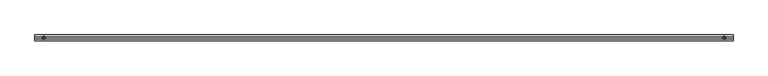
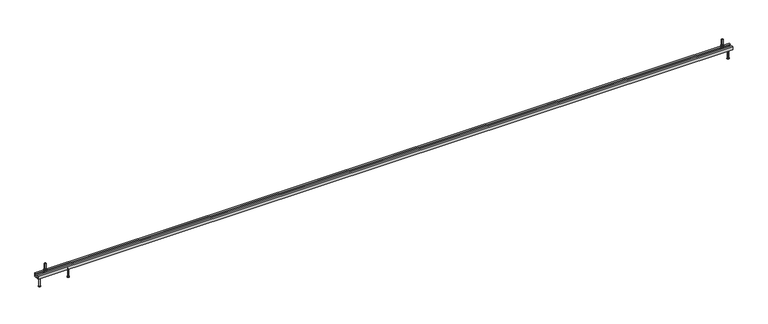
"""IFC4 building model written with IfcOpenShell, lengths in millimetres: fastener geometry, JTA-W JORDAHL® AnchorChannels : JTA-W L=6000 mm."""

from ifc_helpers import new_model, si_unit, point, frame, frame_2d, origin, place, context, project, spatial, polyline, circle_curve, trimmed, segment, composite_curve, outline, extrude, source, transform, mapped, element, save
from ifc_brep_helpers import plane_surface, cylinder_surface, revolved_surface, advanced_brep


def fastener_de041d71(model_context):
    return source(origin(), model_context, "Body", "SolidModel", [
        advanced_brep(
        [(272.9166667, 0.0, -30.0), (259.4166667, 0.0, -30.0), (286.4166667, 0.0, -30.0), (264.4166667, 0.0, -115.0), (272.9166667, 0.0, -115.0), (281.4166667, 0.0, -115.0), (264.4166667, 0.0, -113.0), (281.4166667, 0.0, -113.0), (268.4166667, 0.0, -110.6905989), (277.4166667, 0.0, -110.6905989), (268.4166667, 0.0, -32.5), (277.4166667, 0.0, -32.5)],
        [
            (0, 1),
            (1, 2, circle_curve(frame((272.9166667, 0.0, -30.0), z_axis=(0.0, 0.0, 1.0), x_axis=(1.0, 0.0, 0.0)), 13.5)),
            (2, 0),
            (2, 1, circle_curve(frame((272.9166667, 0.0, -30.0), z_axis=(0.0, 0.0, 1.0), x_axis=(1.0, 0.0, 0.0)), 13.5)),
            (3, 4),
            (4, 5),
            (5, 3, circle_curve(frame((272.9166667, 0.0, -115.0), z_axis=(0.0, 0.0, -1.0), x_axis=(1.0, 0.0, 0.0)), 8.5)),
            (3, 5, circle_curve(frame((272.9166667, 0.0, -115.0), z_axis=(0.0, 0.0, -1.0), x_axis=(1.0, 0.0, 0.0)), 8.5)),
            (6, 3),
            (5, 7),
            (7, 6, circle_curve(frame((272.9166667, 0.0, -113.0), z_axis=(0.0, 0.0, -1.0), x_axis=(1.0, 0.0, 0.0)), 8.5)),
            (6, 7, circle_curve(frame((272.9166667, 0.0, -113.0), z_axis=(0.0, 0.0, -1.0), x_axis=(1.0, 0.0, 0.0)), 8.5)),
            (8, 6),
            (7, 9),
            (9, 8, circle_curve(frame((272.9166667, 0.0, -110.6905989), z_axis=(0.0, 0.0, -1.0), x_axis=(1.0, 0.0, 0.0)), 4.5)),
            (8, 9, circle_curve(frame((272.9166667, 0.0, -110.6905989), z_axis=(0.0, 0.0, -1.0), x_axis=(1.0, 0.0, 0.0)), 4.5)),
            (10, 8),
            (9, 11),
            (11, 10, circle_curve(frame((272.9166667, 0.0, -32.5), z_axis=(0.0, 0.0, -1.0), x_axis=(1.0, 0.0, 0.0)), 4.5)),
            (10, 11, circle_curve(frame((272.9166667, 0.0, -32.5), z_axis=(0.0, 0.0, -1.0), x_axis=(1.0, 0.0, 0.0)), 4.5)),
            (1, 10),
            (11, 2),
        ],
        [
            plane_surface(frame((272.9166667, 0.0, -30.0), z_axis=(0.0, 0.0, 1.0), x_axis=(1.0, 0.0, 0.0))),
            plane_surface(frame((272.9166667, 0.0, -115.0), z_axis=(0.0, 0.0, -1.0), x_axis=(1.0, 0.0, 0.0))),
            cylinder_surface(frame((272.9166667, 0.0, 2299.3150031), z_axis=(0.0, 0.0, 1.0), x_axis=(1.0, 0.0, 0.0)), 8.5),
            revolved_surface(polyline([(281.4166667, 0.0, -113.0), (277.4166667, 0.0, -110.6905989)]), (272.9166667, 0.0, 2299.3150031), (0.0, 0.0, 1.0)),
            cylinder_surface(frame((272.9166667, 0.0, 2299.3150031), z_axis=(0.0, 0.0, 1.0), x_axis=(1.0, 0.0, 0.0)), 4.5),
            revolved_surface(polyline([(277.4166667, 0.0, -32.5), (286.4166667, 0.0, -30.0)]), (272.9166667, 0.0, 2299.3150031), (0.0, 0.0, 1.0)),
        ],
        [
            (0, [[1, 2, 3]]),
            (0, [[-3, 4, -1]]),
            (1, [[5, 6, 7]]),
            (1, [[-6, -5, 8]]),
            (2, [[9, -7, 10, 11]]),
            (2, [[-10, -8, -9, 12]]),
            (3, [[13, -11, 14, 15]]),
            (3, [[-14, -12, -13, 16]]),
            (4, [[17, -15, 18, 19]]),
            (4, [[-18, -16, -17, 20]]),
            (5, [[21, -19, 22, -2]]),
            (5, [[-22, -20, -21, -4]]),
        ],
    ),
        extrude(outline(polyline([(5925.0, -10.3923048), (5916.0, -5.1961524), (5916.0, 5.1961524), (5925.0, 10.3923048), (5934.0, 5.1961524), (5934.0, -5.1961524), (5925.0, -10.3923048)]), holes=[composite_curve([segment(trimmed(circle_curve(frame_2d((5925.0, 0.0)), 6.0), [point((5919.0, 0.0))], [point((5931.0, 0.0))], True, "CARTESIAN"), True, "CONTINUOUS"), segment(trimmed(circle_curve(frame_2d((5925.0, 0.0)), 6.0), [point((5931.0, 0.0))], [point((5919.0, 0.0))], True, "CARTESIAN"), True, "CONTINUOUS")], self_intersect=False)]), frame((0.0, 0.0, 17.5), z_axis=(0.0, 0.0, 1.0), x_axis=(1.0, 0.0, 0.0)), (0.0, 0.0, 1.0), 10.8),
        extrude(outline(composite_curve([segment(trimmed(circle_curve(frame_2d((5925.0, 0.0)), 12.0), [point((5913.0, 0.0))], [point((5937.0, 0.0))], False, "CARTESIAN"), True, "CONTINUOUS"), segment(trimmed(circle_curve(frame_2d((5925.0, 0.0)), 12.0), [point((5937.0, 0.0))], [point((5913.0, 0.0))], False, "CARTESIAN"), True, "CONTINUOUS")], self_intersect=False), holes=[composite_curve([segment(trimmed(circle_curve(frame_2d((5925.0, 0.0)), 6.5), [point((5918.5, 0.0))], [point((5931.5, 0.0))], True, "CARTESIAN"), True, "CONTINUOUS"), segment(trimmed(circle_curve(frame_2d((5925.0, 0.0)), 6.5), [point((5931.5, 0.0))], [point((5918.5, 0.0))], True, "CARTESIAN"), True, "CONTINUOUS")], self_intersect=False)]), frame((0.0, 0.0, 15.0), z_axis=(0.0, 0.0, 1.0), x_axis=(1.0, 0.0, 0.0)), (0.0, 0.0, 1.0), 2.5),
        extrude(outline(polyline([(75.0, -10.3923048), (66.0, -5.1961524), (66.0, 5.1961524), (75.0, 10.3923048), (84.0, 5.1961524), (84.0, -5.1961524), (75.0, -10.3923048)]), holes=[composite_curve([segment(trimmed(circle_curve(frame_2d((75.0, 0.0)), 6.0), [point((69.0, 0.0))], [point((81.0, 0.0))], True, "CARTESIAN"), True, "CONTINUOUS"), segment(trimmed(circle_curve(frame_2d((75.0, 0.0)), 6.0), [point((81.0, 0.0))], [point((69.0, 0.0))], True, "CARTESIAN"), True, "CONTINUOUS")], self_intersect=False)]), frame((0.0, 0.0, 17.5), z_axis=(0.0, 0.0, 1.0), x_axis=(1.0, 0.0, 0.0)), (0.0, 0.0, 1.0), 10.8),
        extrude(outline(composite_curve([segment(trimmed(circle_curve(frame_2d((75.0, 0.0)), 12.0), [point((63.0, 0.0))], [point((87.0, 0.0))], False, "CARTESIAN"), True, "CONTINUOUS"), segment(trimmed(circle_curve(frame_2d((75.0, 0.0)), 12.0), [point((87.0, 0.0))], [point((63.0, 0.0))], False, "CARTESIAN"), True, "CONTINUOUS")], self_intersect=False), holes=[composite_curve([segment(trimmed(circle_curve(frame_2d((75.0, 0.0)), 6.5), [point((68.5, 0.0))], [point((81.5, 0.0))], True, "CARTESIAN"), True, "CONTINUOUS"), segment(trimmed(circle_curve(frame_2d((75.0, 0.0)), 6.5), [point((81.5, 0.0))], [point((68.5, 0.0))], True, "CARTESIAN"), True, "CONTINUOUS")], self_intersect=False)]), frame((0.0, 0.0, 15.0), z_axis=(0.0, 0.0, 1.0), x_axis=(1.0, 0.0, 0.0)), (0.0, 0.0, 1.0), 2.5),
        advanced_brep(
        [(5933.5, -20.7, -4.0), (5933.5, -20.7, -14.0), (5933.5, 20.7, -14.0), (5933.5, 20.7, -4.0), (5916.5, -20.7, -4.0), (5916.5, 20.7, -4.0), (5916.5, 20.7, -14.0), (5916.5, -20.7, -14.0), (5931.0, 0.0, -4.0), (5919.0, 0.0, -4.0), (5919.0, 0.0, 76.0), (5931.0, 0.0, 76.0)],
        [
            (0, 1),
            (1, 2),
            (2, 3),
            (3, 0),
            (4, 5),
            (5, 6),
            (6, 7),
            (7, 4),
            (3, 5),
            (4, 0),
            (8, 9, circle_curve(frame((5925.0, 0.0, -4.0), z_axis=(0.0, 0.0, -1.0), x_axis=(1.0, 0.0, 0.0)), 6.0)),
            (9, 8, circle_curve(frame((5925.0, 0.0, -4.0), z_axis=(0.0, 0.0, -1.0), x_axis=(1.0, 0.0, 0.0)), 6.0)),
            (2, 6),
            (1, 7),
            (10, 11, circle_curve(frame((5925.0, 0.0, 76.0), z_axis=(0.0, 0.0, 1.0), x_axis=(1.0, 0.0, 0.0)), 6.0)),
            (11, 10, circle_curve(frame((5925.0, 0.0, 76.0), z_axis=(0.0, 0.0, 1.0), x_axis=(1.0, 0.0, 0.0)), 6.0)),
            (11, 8),
            (9, 10),
        ],
        [
            plane_surface(frame((5933.5, 20.7, -4.0), z_axis=(1.0, 0.0, 0.0), x_axis=(0.0, 1.0, 0.0))),
            plane_surface(frame((5916.5, 20.7, -4.0), z_axis=(-1.0, 0.0, 0.0), x_axis=(0.0, -1.0, 0.0))),
            plane_surface(frame((5933.5, -20.7, -4.0), z_axis=(0.0, 0.0, 1.0), x_axis=(-1.0, 0.0, 0.0))),
            plane_surface(frame((5933.5, 20.7, -4.0), z_axis=(0.0, 1.0, 0.0), x_axis=(-1.0, 0.0, 0.0))),
            plane_surface(frame((5933.5, 20.7, -14.0), z_axis=(0.0, 0.0, -1.0), x_axis=(-1.0, 0.0, 0.0))),
            plane_surface(frame((5933.5, -20.7, -14.0), z_axis=(0.0, -1.0, 0.0), x_axis=(-1.0, 0.0, 0.0))),
            plane_surface(frame((5931.0, 0.0, 76.0), z_axis=(0.0, 0.0, 1.0), x_axis=(0.0, -1.0, 0.0))),
            cylinder_surface(frame((5925.0, 0.0, -4.0), z_axis=(0.0, 0.0, 1.0), x_axis=(1.0, 0.0, 0.0)), 6.0),
        ],
        [
            (0, [[1, 2, 3, 4]]),
            (1, [[5, 6, 7, 8]]),
            (2, [[9, -5, 10, -4], [11, 12]]),
            (3, [[13, -6, -9, -3]]),
            (4, [[14, -7, -13, -2]]),
            (5, [[-10, -8, -14, -1]]),
            (6, [[15, 16]]),
            (7, [[17, -12, 18, -16]]),
            (7, [[-18, -11, -17, -15]]),
        ],
    ),
        advanced_brep(
        [(83.5, -20.7, -4.0), (83.5, -20.7, -14.0), (83.5, 20.7, -14.0), (83.5, 20.7, -4.0), (66.5, -20.7, -4.0), (66.5, 20.7, -4.0), (66.5, 20.7, -14.0), (66.5, -20.7, -14.0), (81.0, 0.0, -4.0), (69.0, 0.0, -4.0), (69.0, 0.0, 76.0), (81.0, 0.0, 76.0)],
        [
            (0, 1),
            (1, 2),
            (2, 3),
            (3, 0),
            (4, 5),
            (5, 6),
            (6, 7),
            (7, 4),
            (3, 5),
            (4, 0),
            (8, 9, circle_curve(frame((75.0, 0.0, -4.0), z_axis=(0.0, 0.0, -1.0), x_axis=(1.0, 0.0, 0.0)), 6.0)),
            (9, 8, circle_curve(frame((75.0, 0.0, -4.0), z_axis=(0.0, 0.0, -1.0), x_axis=(1.0, 0.0, 0.0)), 6.0)),
            (2, 6),
            (1, 7),
            (10, 11, circle_curve(frame((75.0, 0.0, 76.0), z_axis=(0.0, 0.0, 1.0), x_axis=(1.0, 0.0, 0.0)), 6.0)),
            (11, 10, circle_curve(frame((75.0, 0.0, 76.0), z_axis=(0.0, 0.0, 1.0), x_axis=(1.0, 0.0, 0.0)), 6.0)),
            (11, 8),
            (9, 10),
        ],
        [
            plane_surface(frame((83.5, 20.7, -4.0), z_axis=(1.0, 0.0, 0.0), x_axis=(0.0, 1.0, 0.0))),
            plane_surface(frame((66.5, 20.7, -4.0), z_axis=(-1.0, 0.0, 0.0), x_axis=(0.0, -1.0, 0.0))),
            plane_surface(frame((83.5, -20.7, -4.0), z_axis=(0.0, 0.0, 1.0), x_axis=(-1.0, 0.0, 0.0))),
            plane_surface(frame((83.5, 20.7, -4.0), z_axis=(0.0, 1.0, 0.0), x_axis=(-1.0, 0.0, 0.0))),
            plane_surface(frame((83.5, 20.7, -14.0), z_axis=(0.0, 0.0, -1.0), x_axis=(-1.0, 0.0, 0.0))),
            plane_surface(frame((83.5, -20.7, -14.0), z_axis=(0.0, -1.0, 0.0), x_axis=(-1.0, 0.0, 0.0))),
            plane_surface(frame((81.0, 0.0, 76.0), z_axis=(0.0, 0.0, 1.0), x_axis=(0.0, -1.0, 0.0))),
            cylinder_surface(frame((75.0, 0.0, -4.0), z_axis=(0.0, 0.0, 1.0), x_axis=(1.0, 0.0, 0.0)), 6.0),
        ],
        [
            (0, [[1, 2, 3, 4]]),
            (1, [[5, 6, 7, 8]]),
            (2, [[9, -5, 10, -4], [11, 12]]),
            (3, [[13, -6, -9, -3]]),
            (4, [[14, -7, -13, -2]]),
            (5, [[-10, -8, -14, -1]]),
            (6, [[15, 16]]),
            (7, [[17, -12, 18, -16]]),
            (7, [[-18, -11, -17, -15]]),
        ],
    ),
        advanced_brep(
        [(5975.0, 0.0, -30.0), (5961.5, 0.0, -30.0), (5988.5, 0.0, -30.0), (5966.5, 0.0, -115.0), (5975.0, 0.0, -115.0), (5983.5, 0.0, -115.0), (5966.5, 0.0, -113.0), (5983.5, 0.0, -113.0), (5970.5, 0.0, -110.6905989), (5979.5, 0.0, -110.6905989), (5970.5, 0.0, -32.5), (5979.5, 0.0, -32.5)],
        [
            (0, 1),
            (1, 2, circle_curve(frame((5975.0, 0.0, -30.0), z_axis=(0.0, 0.0, 1.0), x_axis=(1.0, 0.0, 0.0)), 13.5)),
            (2, 0),
            (2, 1, circle_curve(frame((5975.0, 0.0, -30.0), z_axis=(0.0, 0.0, 1.0), x_axis=(1.0, 0.0, 0.0)), 13.5)),
            (3, 4),
            (4, 5),
            (5, 3, circle_curve(frame((5975.0, 0.0, -115.0), z_axis=(0.0, 0.0, -1.0), x_axis=(1.0, 0.0, 0.0)), 8.5)),
            (3, 5, circle_curve(frame((5975.0, 0.0, -115.0), z_axis=(0.0, 0.0, -1.0), x_axis=(1.0, 0.0, 0.0)), 8.5)),
            (6, 3),
            (5, 7),
            (7, 6, circle_curve(frame((5975.0, 0.0, -113.0), z_axis=(0.0, 0.0, -1.0), x_axis=(1.0, 0.0, 0.0)), 8.5)),
            (6, 7, circle_curve(frame((5975.0, 0.0, -113.0), z_axis=(0.0, 0.0, -1.0), x_axis=(1.0, 0.0, 0.0)), 8.5)),
            (8, 6),
            (7, 9),
            (9, 8, circle_curve(frame((5975.0, 0.0, -110.6905989), z_axis=(0.0, 0.0, -1.0), x_axis=(1.0, 0.0, 0.0)), 4.5)),
            (8, 9, circle_curve(frame((5975.0, 0.0, -110.6905989), z_axis=(0.0, 0.0, -1.0), x_axis=(1.0, 0.0, 0.0)), 4.5)),
            (10, 8),
            (9, 11),
            (11, 10, circle_curve(frame((5975.0, 0.0, -32.5), z_axis=(0.0, 0.0, -1.0), x_axis=(1.0, 0.0, 0.0)), 4.5)),
            (10, 11, circle_curve(frame((5975.0, 0.0, -32.5), z_axis=(0.0, 0.0, -1.0), x_axis=(1.0, 0.0, 0.0)), 4.5)),
            (1, 10),
            (11, 2),
        ],
        [
            plane_surface(frame((5975.0, 0.0, -30.0), z_axis=(0.0, 0.0, 1.0), x_axis=(1.0, 0.0, 0.0))),
            plane_surface(frame((5975.0, 0.0, -115.0), z_axis=(0.0, 0.0, -1.0), x_axis=(1.0, 0.0, 0.0))),
            cylinder_surface(frame((5975.0, 0.0, 2299.3150031), z_axis=(0.0, 0.0, 1.0), x_axis=(1.0, 0.0, 0.0)), 8.5),
            revolved_surface(polyline([(5983.5, 0.0, -113.0), (5979.5, 0.0, -110.6905989)]), (5975.0, 0.0, 2299.3150031), (0.0, 0.0, 1.0)),
            cylinder_surface(frame((5975.0, 0.0, 2299.3150031), z_axis=(0.0, 0.0, 1.0), x_axis=(1.0, 0.0, 0.0)), 4.5),
            revolved_surface(polyline([(5979.5, 0.0, -32.5), (5988.5, 0.0, -30.0)]), (5975.0, 0.0, 2299.3150031), (0.0, 0.0, 1.0)),
        ],
        [
            (0, [[1, 2, 3]]),
            (0, [[-3, 4, -1]]),
            (1, [[5, 6, 7]]),
            (1, [[-6, -5, 8]]),
            (2, [[9, -7, 10, 11]]),
            (2, [[-10, -8, -9, 12]]),
            (3, [[13, -11, 14, 15]]),
            (3, [[-14, -12, -13, 16]]),
            (4, [[17, -15, 18, 19]]),
            (4, [[-18, -16, -17, 20]]),
            (5, [[21, -19, 22, -2]]),
            (5, [[-22, -20, -21, -4]]),
        ],
    ),
        advanced_brep(
        [(25.0, 0.0, -30.0), (11.5, 0.0, -30.0), (38.5, 0.0, -30.0), (16.5, 0.0, -115.0), (25.0, 0.0, -115.0), (33.5, 0.0, -115.0), (16.5, 0.0, -113.0), (33.5, 0.0, -113.0), (20.5, 0.0, -110.6905989), (29.5, 0.0, -110.6905989), (20.5, 0.0, -32.5), (29.5, 0.0, -32.5)],
        [
            (0, 1),
            (1, 2, circle_curve(frame((25.0, 0.0, -30.0), z_axis=(0.0, 0.0, 1.0), x_axis=(1.0, 0.0, 0.0)), 13.5)),
            (2, 0),
            (2, 1, circle_curve(frame((25.0, 0.0, -30.0), z_axis=(0.0, 0.0, 1.0), x_axis=(1.0, 0.0, 0.0)), 13.5)),
            (3, 4),
            (4, 5),
            (5, 3, circle_curve(frame((25.0, 0.0, -115.0), z_axis=(0.0, 0.0, -1.0), x_axis=(1.0, 0.0, 0.0)), 8.5)),
            (3, 5, circle_curve(frame((25.0, 0.0, -115.0), z_axis=(0.0, 0.0, -1.0), x_axis=(1.0, 0.0, 0.0)), 8.5)),
            (6, 3),
            (5, 7),
            (7, 6, circle_curve(frame((25.0, 0.0, -113.0), z_axis=(0.0, 0.0, -1.0), x_axis=(1.0, 0.0, 0.0)), 8.5)),
            (6, 7, circle_curve(frame((25.0, 0.0, -113.0), z_axis=(0.0, 0.0, -1.0), x_axis=(1.0, 0.0, 0.0)), 8.5)),
            (8, 6),
            (7, 9),
            (9, 8, circle_curve(frame((25.0, 0.0, -110.6905989), z_axis=(0.0, 0.0, -1.0), x_axis=(1.0, 0.0, 0.0)), 4.5)),
            (8, 9, circle_curve(frame((25.0, 0.0, -110.6905989), z_axis=(0.0, 0.0, -1.0), x_axis=(1.0, 0.0, 0.0)), 4.5)),
            (10, 8),
            (9, 11),
            (11, 10, circle_curve(frame((25.0, 0.0, -32.5), z_axis=(0.0, 0.0, -1.0), x_axis=(1.0, 0.0, 0.0)), 4.5)),
            (10, 11, circle_curve(frame((25.0, 0.0, -32.5), z_axis=(0.0, 0.0, -1.0), x_axis=(1.0, 0.0, 0.0)), 4.5)),
            (1, 10),
            (11, 2),
        ],
        [
            plane_surface(frame((25.0, 0.0, -30.0), z_axis=(0.0, 0.0, 1.0), x_axis=(1.0, 0.0, 0.0))),
            plane_surface(frame((25.0, 0.0, -115.0), z_axis=(0.0, 0.0, -1.0), x_axis=(1.0, 0.0, 0.0))),
            cylinder_surface(frame((25.0, 0.0, 2299.3150031), z_axis=(0.0, 0.0, 1.0), x_axis=(1.0, 0.0, 0.0)), 8.5),
            revolved_surface(polyline([(33.5, 0.0, -113.0), (29.5, 0.0, -110.6905989)]), (25.0, 0.0, 2299.3150031), (0.0, 0.0, 1.0)),
            cylinder_surface(frame((25.0, 0.0, 2299.3150031), z_axis=(0.0, 0.0, 1.0), x_axis=(1.0, 0.0, 0.0)), 4.5),
            revolved_surface(polyline([(29.5, 0.0, -32.5), (38.5, 0.0, -30.0)]), (25.0, 0.0, 2299.3150031), (0.0, 0.0, 1.0)),
        ],
        [
            (0, [[1, 2, 3]]),
            (0, [[-3, 4, -1]]),
            (1, [[5, 6, 7]]),
            (1, [[-6, -5, 8]]),
            (2, [[9, -7, 10, 11]]),
            (2, [[-10, -8, -9, 12]]),
            (3, [[13, -11, 14, 15]]),
            (3, [[-14, -12, -13, 16]]),
            (4, [[17, -15, 18, 19]]),
            (4, [[-18, -16, -17, 20]]),
            (5, [[21, -19, 22, -2]]),
            (5, [[-22, -20, -21, -4]]),
        ],
    ),
        extrude(outline(polyline([(-25.0, 0.0), (-11.25, 0.0), (-11.25, -4.0), (-22.2, -4.0), (-22.2, -27.2), (22.2, -27.2), (22.2, -4.0), (11.25, -4.0), (11.25, 0.0), (25.0, 0.0), (25.0, -30.0), (-25.0, -30.0), (-25.0, 0.0)])), frame((0.0, 0.0, 0.0), z_axis=(1.0, 0.0, 0.0), x_axis=(0.0, 1.0, 0.0)), (0.0, 0.0, 1.0), 6000.0),
    ])


if __name__ == "__main__":
    model = new_model("IFC4")
    model_context = context("Model", 3, world=origin())
    ifc_project = project(units=[si_unit("LENGTHUNIT", "METRE", prefix="MILLI")], contexts=[model_context])
    site = spatial("IfcSite", under=ifc_project)
    building = spatial("IfcBuilding", under=site)
    placement = place(None, origin())
    fastener_shape = fastener_de041d71(model_context)
    element("IfcFastener", 1, ObjectType="JTA-W JORDAHL® AnchorChannels : JTA-W L=6000 mm", at=placement, inside=building, context=model_context, shape_type="MappedRepresentation", body=[
        mapped(fastener_shape, transform((0.0, 0.0, 0.0), x_axis=(1.0, 0.0, 0.0), y_axis=(0.0, 1.0, 0.0), z_axis=(0.0, 0.0, 1.0))),
    ])
    save(model, "model.ifc")
